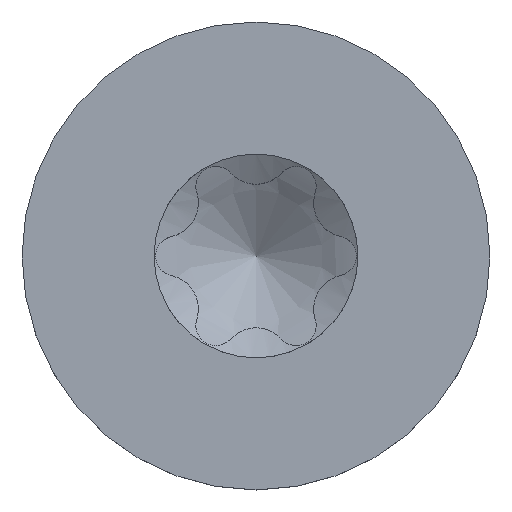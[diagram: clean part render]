
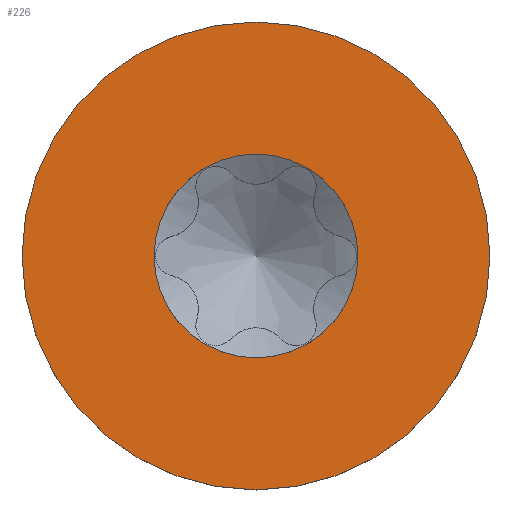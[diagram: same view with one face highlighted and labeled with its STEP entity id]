
A CAD part, top view. The second image highlights one B-rep face of the part: STEP entity #226.
In plain terms, the highlighted planar face has unit normal (0, 0, 1).
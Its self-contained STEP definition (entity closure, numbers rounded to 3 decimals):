
#181=PLANE('',#1170);
#189=FACE_BOUND('',#364,.T.);
#190=FACE_BOUND('',#365,.T.);
#226=ADVANCED_FACE('',(#189,#190),#181,.F.);
#364=EDGE_LOOP('',(#585));
#365=EDGE_LOOP('',(#586));
#585=ORIENTED_EDGE('',*,*,#1019,.F.);
#586=ORIENTED_EDGE('',*,*,#1020,.F.);
#908=VERTEX_POINT('',#2546);
#909=VERTEX_POINT('',#2548);
#1019=EDGE_CURVE('',#908,#908,#1149,.T.);
#1020=EDGE_CURVE('',#909,#909,#1150,.T.);
#1149=CIRCLE('',#1168,0.61);
#1150=CIRCLE('',#1169,1.4);
#1168=AXIS2_PLACEMENT_3D('',#2545,#1223,#1224);
#1169=AXIS2_PLACEMENT_3D('',#2547,#1225,#1226);
#1170=AXIS2_PLACEMENT_3D('',#2549,#1227,#1228);
#1223=DIRECTION('',(0.,0.,1.));
#1224=DIRECTION('',(-1.,0.,0.));
#1225=DIRECTION('',(0.,0.,-1.));
#1226=DIRECTION('',(-1.,0.,0.));
#1227=DIRECTION('',(0.,0.,-1.));
#1228=DIRECTION('',(-1.,0.,0.));
#2545=CARTESIAN_POINT('',(0.,0.,1.155));
#2546=CARTESIAN_POINT('',(-0.61,0.,1.155));
#2547=CARTESIAN_POINT('',(0.,0.,1.155));
#2548=CARTESIAN_POINT('',(-1.4,0.,1.155));
#2549=CARTESIAN_POINT('',(0.,0.,1.155));
